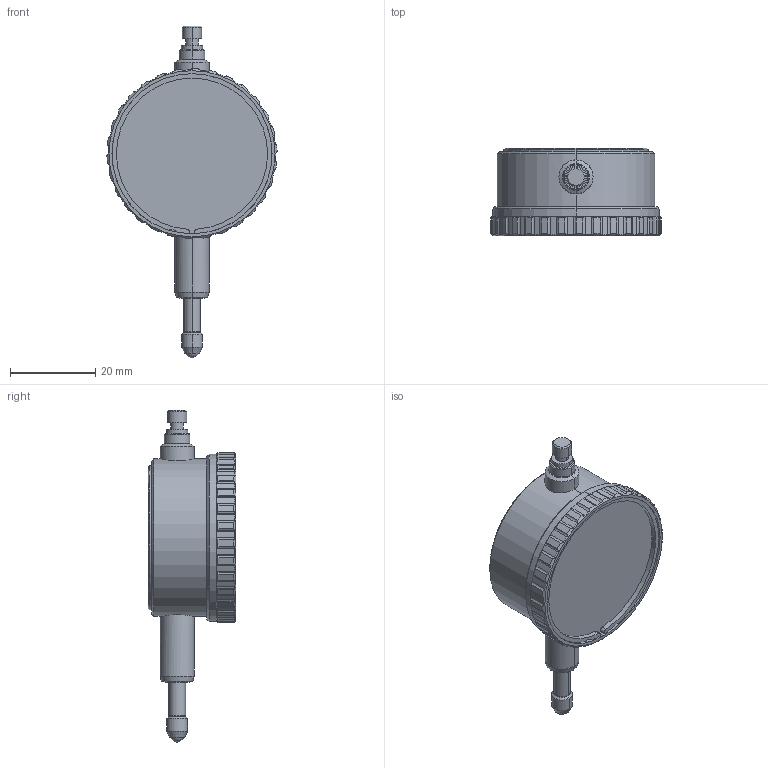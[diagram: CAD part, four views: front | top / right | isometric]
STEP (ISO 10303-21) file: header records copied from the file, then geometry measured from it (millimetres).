
FILE_DESCRIPTION(('STEP AP214'),'1');
FILE_NAME('KM5a.STP','2016-07-19T08:00:16',(' '),(' '),'Spatial InterOp 3D',' ',' ');
FILE_SCHEMA(('automotive_design'));
Length unit declared in the file: millimetre
Products named in the file (1): 1
Bounding box: 39.98 x 20.6 x 77.99 mm (x, y, z)
Volume: 22256.7 mm3; surface area: 7803.5 mm2
Topology: 1 solids, 5 shells, 270 faces, 700 edges, 456 vertices
Faces by surface type: cylinder 198, plane 41, cone 30, sphere 1
Entity records: 12559 total; most frequent: CARTESIAN_POINT 6173, ORIENTED_EDGE 1400, DIRECTION 1234, EDGE_CURVE 700, AXIS2_PLACEMENT_3D 489, VERTEX_POINT 456, EDGE_LOOP 292, ADVANCED_FACE 270
